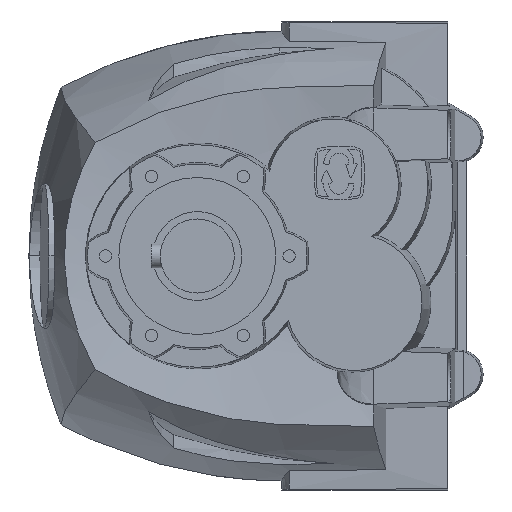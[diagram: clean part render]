
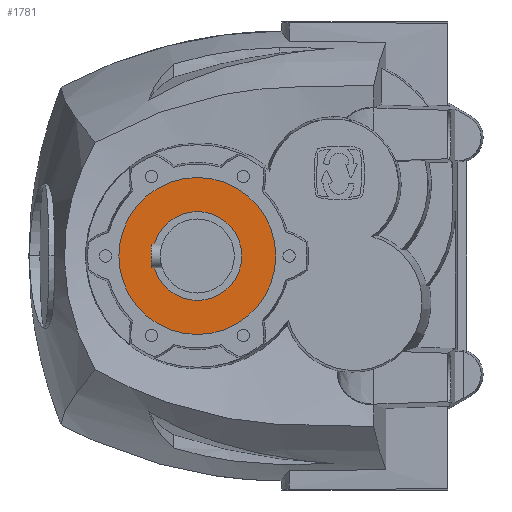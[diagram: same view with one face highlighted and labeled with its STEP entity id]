
A CAD part, left-side view. The second image highlights one B-rep face of the part: STEP entity #1781.
In plain terms, the highlighted planar face has unit normal (-1, 0, 0).
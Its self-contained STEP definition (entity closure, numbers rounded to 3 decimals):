
#367 = CARTESIAN_POINT ( 'NONE',  ( -87.5, 0., 0. ) ) ;
#371 = PLANE ( 'NONE',  #5918 ) ;
#376 = DIRECTION ( 'NONE',  ( -1., 0., 0. ) ) ;
#377 = DIRECTION ( 'NONE',  ( 0., 0., 1. ) ) ;
#1048 = EDGE_CURVE ( 'NONE', #3961, #3962, #3439, .T. ) ;
#1064 = EDGE_CURVE ( 'NONE', #3977, #3978, #3460, .T. ) ;
#1157 = EDGE_CURVE ( 'NONE', #3978, #3977, #10464, .T. ) ;
#1158 = EDGE_CURVE ( 'NONE', #3962, #3961, #10472, .T. ) ;
#1781 = ADVANCED_FACE ( 'NONE', ( #10630, #10633 ), #371, .T. ) ;
#2289 = CARTESIAN_POINT ( 'NONE',  ( -87.5, 0., 0. ) ) ;
#2290 = DIRECTION ( 'NONE',  ( -1., 0., 0. ) ) ;
#2291 = DIRECTION ( 'NONE',  ( 0., 0., 1. ) ) ;
#2292 = CARTESIAN_POINT ( 'NONE',  ( -87.5, 0., 0. ) ) ;
#2293 = DIRECTION ( 'NONE',  ( 1., 0., 0. ) ) ;
#2294 = DIRECTION ( 'NONE',  ( 0., 0., 1. ) ) ;
#3439 = CIRCLE ( 'NONE', #5797, 15. ) ;
#3460 = CIRCLE ( 'NONE', #5805, 26.5 ) ;
#3961 = VERTEX_POINT ( 'NONE', #13741 ) ;
#3962 = VERTEX_POINT ( 'NONE', #13742 ) ;
#3977 = VERTEX_POINT ( 'NONE', #13757 ) ;
#3978 = VERTEX_POINT ( 'NONE', #13758 ) ;
#4316 = EDGE_LOOP ( 'NONE', ( #4466, #4467 ) ) ;
#4325 = EDGE_LOOP ( 'NONE', ( #4468, #4469 ) ) ;
#4466 = ORIENTED_EDGE ( 'NONE', *, *, #1157, .T. ) ;
#4467 = ORIENTED_EDGE ( 'NONE', *, *, #1064, .T. ) ;
#4468 = ORIENTED_EDGE ( 'NONE', *, *, #1158, .T. ) ;
#4469 = ORIENTED_EDGE ( 'NONE', *, *, #1048, .T. ) ;
#5797 = AXIS2_PLACEMENT_3D ( 'NONE', #9815, #9816, #9817 ) ;
#5805 = AXIS2_PLACEMENT_3D ( 'NONE', #9856, #9857, #9858 ) ;
#5828 = AXIS2_PLACEMENT_3D ( 'NONE', #2289, #2290, #2291 ) ;
#5829 = AXIS2_PLACEMENT_3D ( 'NONE', #2292, #2293, #2294 ) ;
#5918 = AXIS2_PLACEMENT_3D ( 'NONE', #367, #376, #377 ) ;
#9815 = CARTESIAN_POINT ( 'NONE',  ( -87.5, 0., 0. ) ) ;
#9816 = DIRECTION ( 'NONE',  ( 1., 0., 0. ) ) ;
#9817 = DIRECTION ( 'NONE',  ( 0., 0., 1. ) ) ;
#9856 = CARTESIAN_POINT ( 'NONE',  ( -87.5, 0., 0. ) ) ;
#9857 = DIRECTION ( 'NONE',  ( -1., 0., 0. ) ) ;
#9858 = DIRECTION ( 'NONE',  ( 0., 0., 1. ) ) ;
#10464 = CIRCLE ( 'NONE', #5828, 26.5 ) ;
#10472 = CIRCLE ( 'NONE', #5829, 15. ) ;
#10630 = FACE_OUTER_BOUND ( 'NONE', #4316, .T. ) ;
#10633 = FACE_BOUND ( 'NONE', #4325, .T. ) ;
#13741 = CARTESIAN_POINT ( 'NONE',  ( -87.5, 0., -15. ) ) ;
#13742 = CARTESIAN_POINT ( 'NONE',  ( -87.5, 0., 15. ) ) ;
#13757 = CARTESIAN_POINT ( 'NONE',  ( -87.5, 0., 26.5 ) ) ;
#13758 = CARTESIAN_POINT ( 'NONE',  ( -87.5, 0., -26.5 ) ) ;
